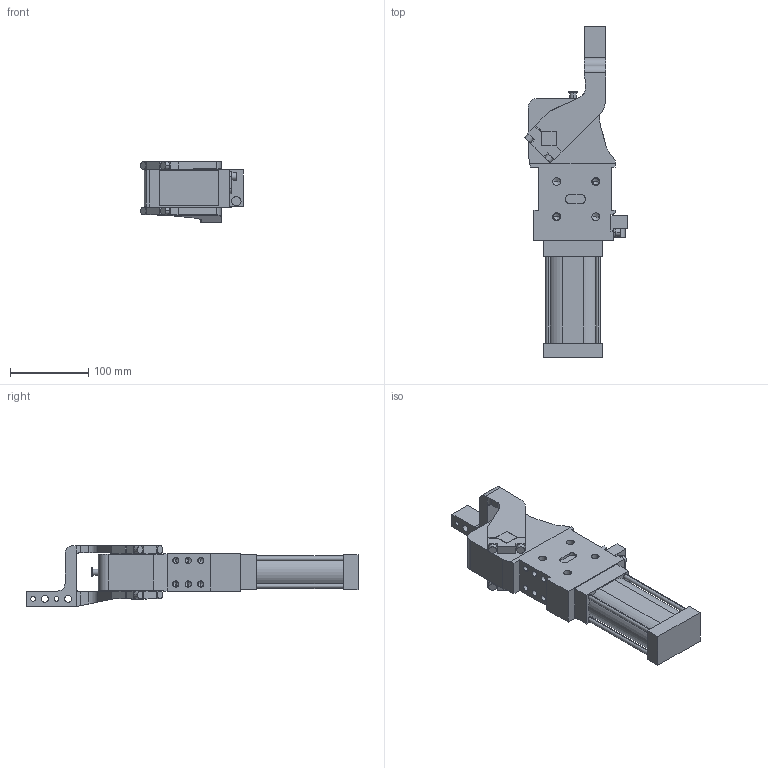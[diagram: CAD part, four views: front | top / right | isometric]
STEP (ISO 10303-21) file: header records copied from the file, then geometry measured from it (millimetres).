
FILE_DESCRIPTION (( 'STEP AP214' ), '1' );
FILE_NAME ('cpl50h3dsi1g_75.STEP', '2023-01-26T09:53:33', ( '' ), ( '' ), 'SwSTEP 2.0', 'SolidWorks 2022', '' );
FILE_SCHEMA (( 'AUTOMOTIVE_DESIGN' ));
Length unit declared in the file: millimetre
Products named in the file (4): blocchetto_VEP_0; cpl50h3dsi1g_75; leva_dx_offset_45_cpl50; meccanica_cpl_50
Assembly tree (3 placements, depth 2):
  cpl50h3dsi1g_75
    meccanica_cpl_50
    blocchetto_VEP_0
    leva_dx_offset_45_cpl50
Bounding box: 131.47 x 424.5 x 78.5 mm (x, y, z)
Volume: 1401486.7 mm3; surface area: 167143.1 mm2
Topology: 3 solids, 3 shells, 401 faces, 1035 edges, 643 vertices
Faces by surface type: plane 195, cylinder 156, cone 50
Entity records: 13476 total; most frequent: CARTESIAN_POINT 2142, DIRECTION 2110, ORIENTED_EDGE 1978, EDGE_CURVE 989, AXIS2_PLACEMENT_3D 729, LINE 652, VECTOR 652, VERTEX_POINT 643
